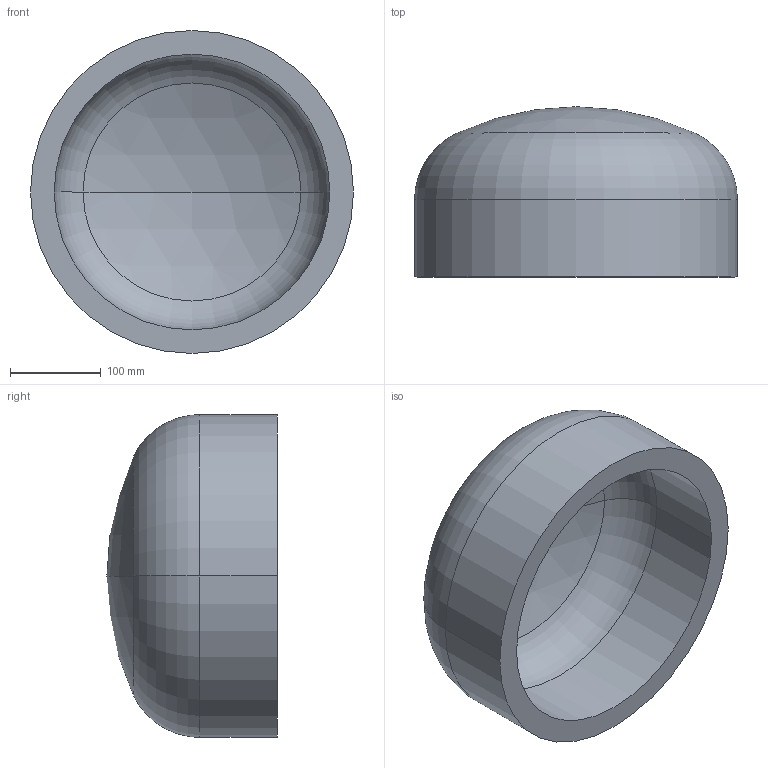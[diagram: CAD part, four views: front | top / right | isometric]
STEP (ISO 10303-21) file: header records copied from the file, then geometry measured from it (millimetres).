
FILE_DESCRIPTION (( 'STEP AP203' ), '1' );
FILE_NAME ('DIN 28013 Korbbogenform_-_Boden DIN 28013 - 355,6 x 85 - I - s=26.step', '2016-07-01T07:47:15', ( '' ), ( '' ), 'SwSTEP 2.0', 'SolidWorks 2013', '' );
FILE_SCHEMA (( 'CONFIG_CONTROL_DESIGN' ));
Length unit declared in the file: millimetre
Products named in the file (1): DIN 28013 Korbbogenform_-_Boden DIN 28013 - 355,6 x 85 - I - s=26
Bounding box: 355.6 x 187.47 x 355.6 mm (x, y, z)
Volume: 5552688.3 mm3; surface area: 455467.8 mm2
Topology: 1 solids, 1 shells, 13 faces, 24 edges, 14 vertices
Faces by surface type: torus 4, cylinder 4, sphere 4, plane 1
Entity records: 407 total; most frequent: DIRECTION 72, CARTESIAN_POINT 52, ORIENTED_EDGE 48, AXIS2_PLACEMENT_3D 34, EDGE_CURVE 24, CIRCLE 20, VERTEX_POINT 14, EDGE_LOOP 14
